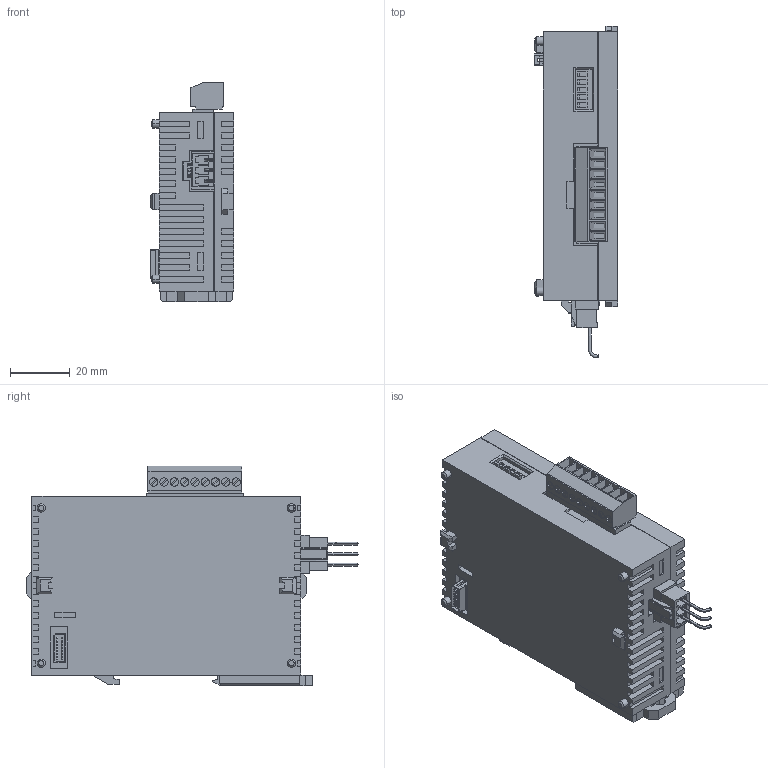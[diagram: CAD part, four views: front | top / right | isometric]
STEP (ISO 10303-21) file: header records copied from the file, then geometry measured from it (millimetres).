
FILE_DESCRIPTION (( 'STEP AP214' ), '1' );
FILE_NAME ('afp0480.stp', '2008-08-28T04:36:09', ( '' ), ( 'PanasonicElectricWorks' ), '', '', '' );
FILE_SCHEMA (( 'AUTOMOTIVE_DESIGN' ));
Length unit declared in the file: millimetre
Products named in the file (1): afp0480
Bounding box: 28 x 111.19 x 73.45 mm (x, y, z)
Volume: 137807.7 mm3; surface area: 25614.1 mm2
Topology: 1 solids, 4 shells, 884 faces, 2371 edges, 1558 vertices
Faces by surface type: plane 791, cylinder 57, bspline 28, cone 8
Entity records: 45229 total; most frequent: CARTESIAN_POINT 13370, ORIENTED_EDGE 4742, DIRECTION 4203, EDGE_CURVE 2371, VECTOR 2169, LINE 2169, VERTEX_POINT 1558, AXIS2_PLACEMENT_3D 1017
